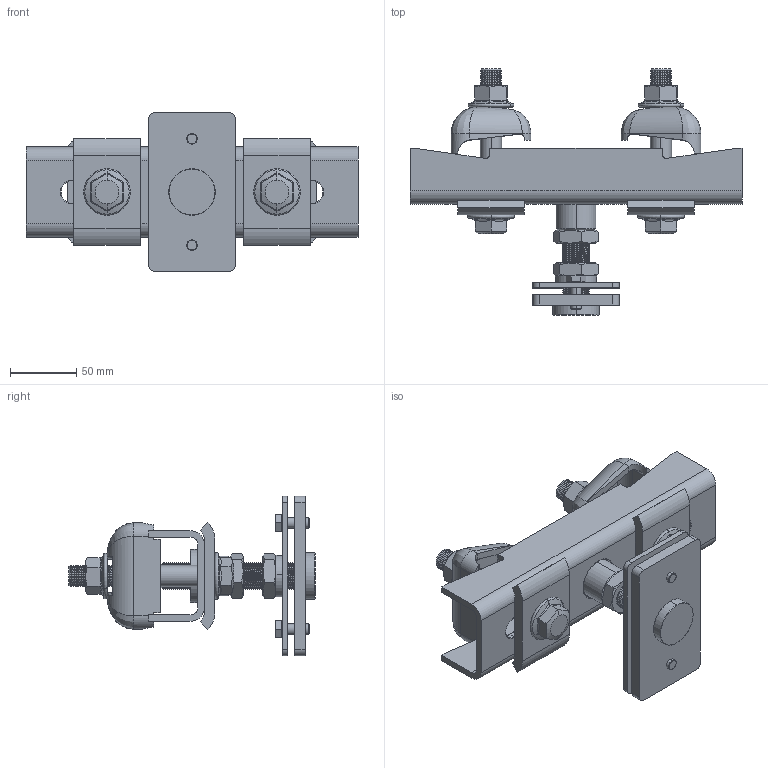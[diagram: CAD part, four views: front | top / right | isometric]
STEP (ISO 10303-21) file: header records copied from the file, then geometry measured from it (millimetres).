
FILE_DESCRIPTION (( 'STEP AP203' ), '1' );
FILE_NAME ('寢耋裂萸(1).STEP', '2022-03-12T03:32:24', ( '' ), ( '' ), 'SwSTEP 2.0', 'SolidWorks 2017', '' );
FILE_SCHEMA (( 'CONFIG_CONTROL_DESIGN' ));
Products named in the file (1): 寢耋裂萸(1)
Bounding box: 250 x 185.5 x 120 mm (x, y, z)
Volume: 512258.7 mm3; surface area: 208350.6 mm2
Topology: 19 solids, 19 shells, 1287 faces, 3009 edges, 1766 vertices
Faces by surface type: cylinder 475, cone 437, plane 195, bspline 138, torus 42
Entity records: 193618 total; most frequent: CARTESIAN_POINT 166317, ORIENTED_EDGE 6010, DIRECTION 5428, EDGE_CURVE 3005, AXIS2_PLACEMENT_3D 2099, VERTEX_POINT 1766, EDGE_LOOP 1333, ADVANCED_FACE 1287
